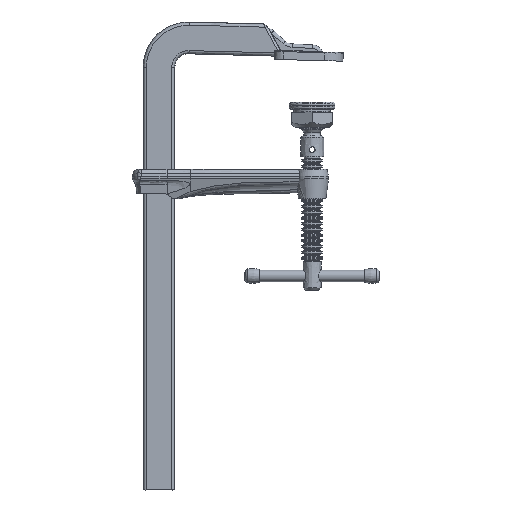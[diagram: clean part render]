
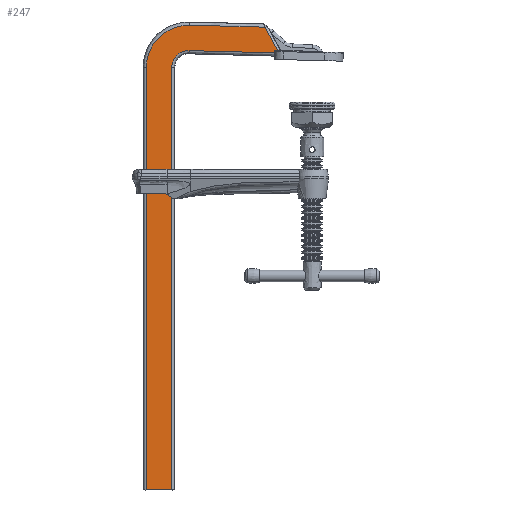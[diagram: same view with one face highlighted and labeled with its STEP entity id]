
A CAD part, front view. The second image highlights one B-rep face of the part: STEP entity #247.
In plain terms, the highlighted free-form (B-spline) face has degree [1, 1] with [2, 2] control points.
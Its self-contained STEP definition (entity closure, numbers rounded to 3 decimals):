
#51=CARTESIAN_POINT('',(25.085,5.375,-370.));
#52=VERTEX_POINT('',#51);
#53=CARTESIAN_POINT('',(2.815,5.375,-370.));
#54=VERTEX_POINT('',#53);
#55=CARTESIAN_POINT('',(25.085,5.375,-370.));
#56=CARTESIAN_POINT('',(23.179,5.375,-370.));
#57=CARTESIAN_POINT('',(13.95,5.375,-370.));
#58=CARTESIAN_POINT('',(4.721,5.375,-370.));
#59=CARTESIAN_POINT('',(2.815,5.375,-370.));
#60=B_SPLINE_CURVE_WITH_KNOTS('',1,(#55,#56,#57,#58,#59),.UNSPECIFIED.,.F.,.U.,(2,1,1,1,2),(0.,0.206,1.206,2.206,2.413),.UNSPECIFIED.);
#61=EDGE_CURVE('',#52,#54,#60,.T.);
#154=CARTESIAN_POINT('',(-298.421,5.375,78.24));
#155=CARTESIAN_POINT('',(-298.421,5.375,-410.858));
#156=CARTESIAN_POINT('',(190.677,5.375,78.24));
#157=CARTESIAN_POINT('',(190.677,5.375,-410.858));
#158=B_SPLINE_SURFACE_WITH_KNOTS('',1,1,((#154,#155),(#156,#157)),.PLANE_SURF.,.F.,.F.,.U.,(2,2),(2,2),(0.,1.),(0.,1.),.UNSPECIFIED.);
#159=CARTESIAN_POINT('',(-86.898,5.375,14.141));
#160=VERTEX_POINT('',#159);
#161=CARTESIAN_POINT('',(-87.924,5.375,15.114));
#162=VERTEX_POINT('',#161);
#163=CARTESIAN_POINT('',(-86.898,5.375,14.141));
#164=CARTESIAN_POINT('',(-86.904,5.375,14.391));
#165=CARTESIAN_POINT('',(-87.674,5.375,15.121));
#166=CARTESIAN_POINT('',(-87.924,5.375,15.114));
#167=B_SPLINE_CURVE_WITH_KNOTS('',2,(#163,#164,#165,#166),.UNSPECIFIED.,.F.,.U.,(3,1,3),(0.,0.5,1.),.UNSPECIFIED.);
#168=EDGE_CURVE('',#160,#162,#167,.T.);
#169=ORIENTED_EDGE('',*,*,#168,.T.);
#170=CARTESIAN_POINT('',(-90.058,5.375,15.059));
#171=VERTEX_POINT('',#170);
#172=CARTESIAN_POINT('',(-90.058,5.375,15.059));
#173=CARTESIAN_POINT('',(-87.924,5.375,15.114));
#174=B_SPLINE_CURVE_WITH_KNOTS('',1,(#172,#173),.POLYLINE_FORM.,.F.,.U.,(2,2),(0.083,0.826),.UNSPECIFIED.);
#175=EDGE_CURVE('',#171,#162,#174,.T.);
#176=ORIENTED_EDGE('',*,*,#175,.F.);
#177=CARTESIAN_POINT('',(-79.053,5.375,35.342));
#178=VERTEX_POINT('',#177);
#179=CARTESIAN_POINT('',(-79.053,5.375,35.342));
#180=CARTESIAN_POINT('',(-79.235,5.375,34.99));
#181=CARTESIAN_POINT('',(-79.578,5.375,34.36));
#182=CARTESIAN_POINT('',(-79.96,5.375,33.656));
#183=CARTESIAN_POINT('',(-80.532,5.375,32.603));
#184=CARTESIAN_POINT('',(-81.39,5.375,31.023));
#185=CARTESIAN_POINT('',(-82.676,5.375,28.654));
#186=CARTESIAN_POINT('',(-84.606,5.375,25.099));
#187=CARTESIAN_POINT('',(-87.378,5.375,19.995));
#188=CARTESIAN_POINT('',(-89.525,5.375,16.041));
#189=CARTESIAN_POINT('',(-90.058,5.375,15.059));
#190=B_SPLINE_CURVE_WITH_KNOTS('',2,(#179,#180,#181,#182,#183,#184,#185,#186,#187,#188,#189),.UNSPECIFIED.,.F.,.U.,(3,1,1,1,1,1,1,1,1,3),(0.,0.025,0.045,0.076,0.121,0.189,0.292,0.445,0.659,0.73),.UNSPECIFIED.);
#191=EDGE_CURVE('',#178,#171,#190,.T.);
#192=ORIENTED_EDGE('',*,*,#191,.F.);
#193=CARTESIAN_POINT('',(-12.971,5.375,37.072));
#194=VERTEX_POINT('',#193);
#195=CARTESIAN_POINT('',(-12.971,5.375,37.072));
#196=CARTESIAN_POINT('',(-79.053,5.375,35.342));
#197=B_SPLINE_CURVE_WITH_KNOTS('',1,(#195,#196),.POLYLINE_FORM.,.F.,.U.,(2,2),(0.,0.551),.UNSPECIFIED.);
#198=EDGE_CURVE('',#194,#178,#197,.T.);
#199=ORIENTED_EDGE('',*,*,#198,.F.);
#200=CARTESIAN_POINT('',(25.085,5.375,0.));
#201=VERTEX_POINT('',#200);
#202=CARTESIAN_POINT('',(-12.971,5.375,37.072));
#203=CARTESIAN_POINT('',(2.67,5.375,37.482));
#204=CARTESIAN_POINT('',(13.877,5.375,26.564));
#205=CARTESIAN_POINT('',(25.085,5.375,15.646));
#206=CARTESIAN_POINT('',(25.085,5.375,0.));
#207=(BOUNDED_CURVE()B_SPLINE_CURVE(2,(#202,#203,#204,#205,#206),.CIRCULAR_ARC.,.F.,.U.)B_SPLINE_CURVE_WITH_KNOTS((3,2,3),(0.,0.5,1.),.UNSPECIFIED.)CURVE()GEOMETRIC_REPRESENTATION_ITEM()RATIONAL_B_SPLINE_CURVE((1.,0.921,1.,0.921,1.))REPRESENTATION_ITEM(''));
#208=EDGE_CURVE('',#194,#201,#207,.T.);
#209=ORIENTED_EDGE('',*,*,#208,.T.);
#210=CARTESIAN_POINT('',(25.085,5.375,0.));
#211=CARTESIAN_POINT('',(25.085,5.375,-370.));
#212=B_SPLINE_CURVE_WITH_KNOTS('',1,(#210,#211),.POLYLINE_FORM.,.F.,.U.,(2,2),(0.,1.),.UNSPECIFIED.);
#213=EDGE_CURVE('',#201,#52,#212,.T.);
#214=ORIENTED_EDGE('',*,*,#213,.T.);
#215=ORIENTED_EDGE('',*,*,#61,.T.);
#216=CARTESIAN_POINT('',(2.815,5.375,0.));
#217=VERTEX_POINT('',#216);
#218=CARTESIAN_POINT('',(2.815,5.375,0.));
#219=CARTESIAN_POINT('',(2.815,5.375,-370.));
#220=B_SPLINE_CURVE_WITH_KNOTS('',1,(#218,#219),.POLYLINE_FORM.,.F.,.U.,(2,2),(0.,1.),.UNSPECIFIED.);
#221=EDGE_CURVE('',#217,#54,#220,.T.);
#222=ORIENTED_EDGE('',*,*,#221,.F.);
#223=CARTESIAN_POINT('',(-12.388,5.375,14.81));
#224=VERTEX_POINT('',#223);
#225=CARTESIAN_POINT('',(-12.388,5.375,14.81));
#226=CARTESIAN_POINT('',(-6.139,5.375,14.974));
#227=CARTESIAN_POINT('',(-1.662,5.375,10.612));
#228=CARTESIAN_POINT('',(2.815,5.375,6.251));
#229=CARTESIAN_POINT('',(2.815,5.375,0.));
#230=(BOUNDED_CURVE()B_SPLINE_CURVE(2,(#225,#226,#227,#228,#229),.UNSPECIFIED.,.F.,.U.)B_SPLINE_CURVE_WITH_KNOTS((3,2,3),(0.,0.5,1.),.UNSPECIFIED.)CURVE()GEOMETRIC_REPRESENTATION_ITEM()RATIONAL_B_SPLINE_CURVE((1.,0.921,1.,0.921,1.))REPRESENTATION_ITEM(''));
#231=EDGE_CURVE('',#224,#217,#230,.T.);
#232=ORIENTED_EDGE('',*,*,#231,.F.);
#233=CARTESIAN_POINT('',(-86.864,5.375,12.86));
#234=VERTEX_POINT('',#233);
#235=CARTESIAN_POINT('',(-12.388,5.375,14.81));
#236=CARTESIAN_POINT('',(-86.864,5.375,12.86));
#237=B_SPLINE_CURVE_WITH_KNOTS('',1,(#235,#236),.POLYLINE_FORM.,.F.,.U.,(2,2),(0.,0.621),.UNSPECIFIED.);
#238=EDGE_CURVE('',#224,#234,#237,.T.);
#239=ORIENTED_EDGE('',*,*,#238,.T.);
#240=CARTESIAN_POINT('',(-86.898,5.375,14.141));
#241=CARTESIAN_POINT('',(-86.864,5.375,12.86));
#242=B_SPLINE_CURVE_WITH_KNOTS('',1,(#240,#241),.POLYLINE_FORM.,.F.,.U.,(2,2),(0.952,1.),.UNSPECIFIED.);
#243=EDGE_CURVE('',#160,#234,#242,.T.);
#244=ORIENTED_EDGE('',*,*,#243,.F.);
#245=EDGE_LOOP('',(#169,#176,#192,#199,#209,#214,#215,#222,#232,#239,#244));
#246=FACE_OUTER_BOUND('',#245,.T.);
#247=ADVANCED_FACE('',(#246),#158,.T.);
